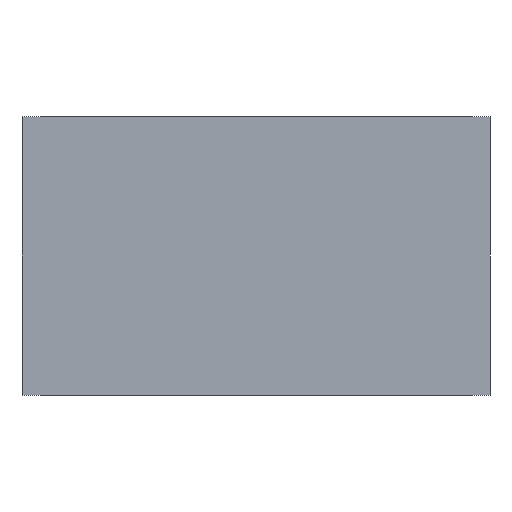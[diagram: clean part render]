
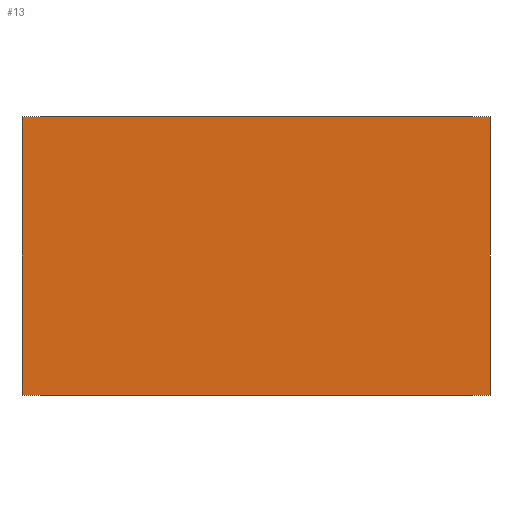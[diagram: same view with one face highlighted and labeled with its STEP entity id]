
A CAD part, front view. The second image highlights one B-rep face of the part: STEP entity #13.
In plain terms, the highlighted planar face has unit normal (0, -1, 0).
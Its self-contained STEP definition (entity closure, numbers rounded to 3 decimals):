
#13 = ADVANCED_FACE ( 'NONE', ( #558 ), #206, .F. ) ;
#32 = CARTESIAN_POINT ( 'NONE',  ( -101., 0., 120. ) ) ;
#37 = DIRECTION ( 'NONE',  ( 0., 0., -1. ) ) ;
#64 = DIRECTION ( 'NONE',  ( 1., 0., 0. ) ) ;
#65 = CARTESIAN_POINT ( 'NONE',  ( -101., 0., 120. ) ) ;
#82 = DIRECTION ( 'NONE',  ( 1., 0., 0. ) ) ;
#89 = CARTESIAN_POINT ( 'NONE',  ( -101., 0., 0. ) ) ;
#128 = CARTESIAN_POINT ( 'NONE',  ( -101., 0., 120. ) ) ;
#129 = CARTESIAN_POINT ( 'NONE',  ( 101., 0., 120. ) ) ;
#131 = CARTESIAN_POINT ( 'NONE',  ( -101., 0., 0. ) ) ;
#132 = CARTESIAN_POINT ( 'NONE',  ( 101., 0., 0. ) ) ;
#195 = DIRECTION ( 'NONE',  ( -1., 0., 0. ) ) ;
#196 = DIRECTION ( 'NONE',  ( 0., 1., 0. ) ) ;
#202 = CARTESIAN_POINT ( 'NONE',  ( -101., 0., 120. ) ) ;
#206 = PLANE ( 'NONE',  #317 ) ;
#253 = VERTEX_POINT ( 'NONE', #132 ) ;
#254 = VERTEX_POINT ( 'NONE', #131 ) ;
#256 = VERTEX_POINT ( 'NONE', #129 ) ;
#257 = VERTEX_POINT ( 'NONE', #128 ) ;
#281 = EDGE_CURVE ( 'NONE', #254, #253, #519, .T. ) ;
#285 = EDGE_CURVE ( 'NONE', #257, #256, #508, .T. ) ;
#317 = AXIS2_PLACEMENT_3D ( 'NONE', #202, #196, #195 ) ;
#323 = EDGE_CURVE ( 'NONE', #257, #254, #485, .T. ) ;
#353 = EDGE_CURVE ( 'NONE', #256, #253, #727, .T. ) ;
#375 = CARTESIAN_POINT ( 'NONE',  ( 101., 0., 120. ) ) ;
#376 = DIRECTION ( 'NONE',  ( 0., 0., -1. ) ) ;
#451 = VECTOR ( 'NONE', #37, 1000. ) ;
#485 = LINE ( 'NONE', #32, #451 ) ;
#507 = VECTOR ( 'NONE', #64, 1000. ) ;
#508 = LINE ( 'NONE', #65, #507 ) ;
#512 = VECTOR ( 'NONE', #82, 1000. ) ;
#519 = LINE ( 'NONE', #89, #512 ) ;
#558 = FACE_OUTER_BOUND ( 'NONE', #583, .T. ) ;
#583 = EDGE_LOOP ( 'NONE', ( #664, #665, #666, #667 ) ) ;
#664 = ORIENTED_EDGE ( 'NONE', *, *, #281, .T. ) ;
#665 = ORIENTED_EDGE ( 'NONE', *, *, #353, .F. ) ;
#666 = ORIENTED_EDGE ( 'NONE', *, *, #285, .F. ) ;
#667 = ORIENTED_EDGE ( 'NONE', *, *, #323, .T. ) ;
#727 = LINE ( 'NONE', #375, #729 ) ;
#729 = VECTOR ( 'NONE', #376, 1000. ) ;
